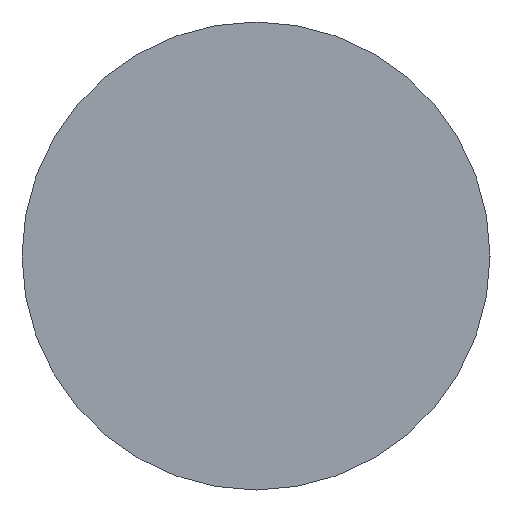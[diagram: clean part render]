
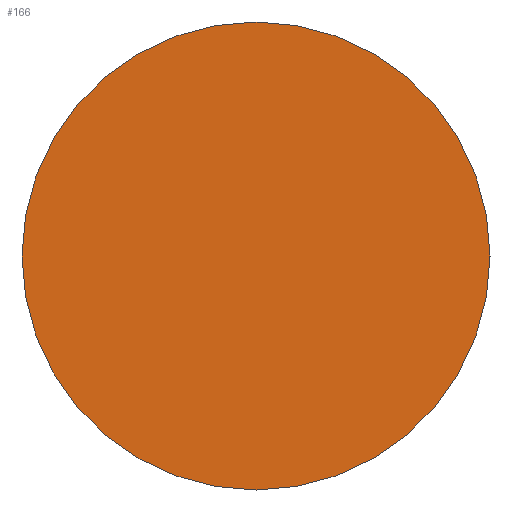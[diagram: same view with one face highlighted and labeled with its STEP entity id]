
A CAD part, left-side view. The second image highlights one B-rep face of the part: STEP entity #166.
In plain terms, the highlighted planar face has unit normal (-1, 0, 0).
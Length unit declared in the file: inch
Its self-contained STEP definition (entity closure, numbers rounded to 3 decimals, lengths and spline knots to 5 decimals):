
#1 = VERTEX_POINT ( 'NONE', #419 ) ;
#51 = DIRECTION ( 'NONE',  ( 0., 0., -1. ) ) ;
#61 = CARTESIAN_POINT ( 'NONE',  ( -6., 0., 0. ) ) ;
#83 = DIRECTION ( 'NONE',  ( 0., 0., 1. ) ) ;
#86 = EDGE_LOOP ( 'NONE', ( #405, #438 ) ) ;
#88 = CARTESIAN_POINT ( 'NONE',  ( -6., 0.25, 0. ) ) ;
#107 = AXIS2_PLACEMENT_3D ( 'NONE', #275, #165, #83 ) ;
#114 = CIRCLE ( 'NONE', #107, 0.25 ) ;
#165 = DIRECTION ( 'NONE',  ( -1., 0., 0. ) ) ;
#166 = ADVANCED_FACE ( 'NONE', ( #432 ), #393, .F. ) ;
#185 = EDGE_CURVE ( 'NONE', #1, #218, #403, .T. ) ;
#204 = AXIS2_PLACEMENT_3D ( 'NONE', #61, #333, #491 ) ;
#218 = VERTEX_POINT ( 'NONE', #270 ) ;
#225 = AXIS2_PLACEMENT_3D ( 'NONE', #88, #434, #51 ) ;
#270 = CARTESIAN_POINT ( 'NONE',  ( -6., 0., 0.25 ) ) ;
#275 = CARTESIAN_POINT ( 'NONE',  ( -6., 0., 0. ) ) ;
#333 = DIRECTION ( 'NONE',  ( -1., 0., 0. ) ) ;
#366 = EDGE_CURVE ( 'NONE', #218, #1, #114, .T. ) ;
#393 = PLANE ( 'NONE',  #225 ) ;
#403 = CIRCLE ( 'NONE', #204, 0.25 ) ;
#405 = ORIENTED_EDGE ( 'NONE', *, *, #366, .T. ) ;
#419 = CARTESIAN_POINT ( 'NONE',  ( -6., 0., -0.25 ) ) ;
#432 = FACE_OUTER_BOUND ( 'NONE', #86, .T. ) ;
#434 = DIRECTION ( 'NONE',  ( 1., 0., 0. ) ) ;
#438 = ORIENTED_EDGE ( 'NONE', *, *, #185, .T. ) ;
#491 = DIRECTION ( 'NONE',  ( 0., 0., 1. ) ) ;
